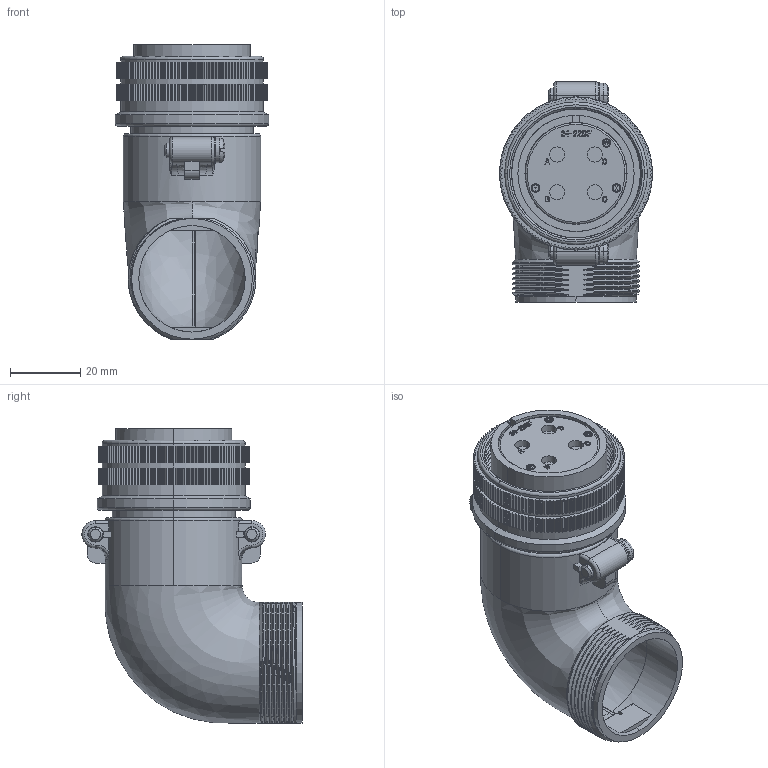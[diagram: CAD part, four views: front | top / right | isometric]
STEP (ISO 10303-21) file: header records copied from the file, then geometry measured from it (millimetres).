
FILE_DESCRIPTION (( 'STEP AP203' ), '1' );
FILE_NAME ('DMS3108B24-22S.STEP', '2018-09-11T02:03:45', ( '' ), ( '' ), 'SwSTEP 2.0', 'SolidWorks 2018', '' );
FILE_SCHEMA (( 'CONFIG_CONTROL_DESIGN' ));
Products named in the file (1): DMS3108B24-22S
Bounding box: 43.58 x 62.59 x 83.66 mm (x, y, z)
Volume: 52702.9 mm3; surface area: 36809.2 mm2
Topology: 1 solids, 3 shells, 2671 faces, 7690 edges, 5094 vertices
Faces by surface type: cylinder 1375, plane 957, bspline 278, cone 32, torus 25, sphere 4
Entity records: 110611 total; most frequent: CARTESIAN_POINT 40066, ORIENTED_EDGE 15380, DIRECTION 14548, EDGE_CURVE 7690, AXIS2_PLACEMENT_3D 5185, VERTEX_POINT 5094, VECTOR 4178, LINE 4178
